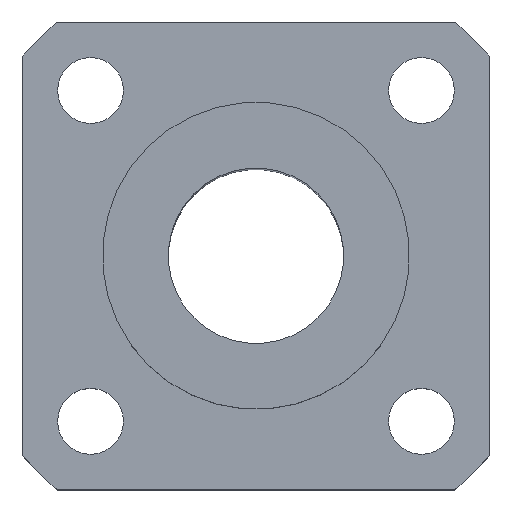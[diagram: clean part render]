
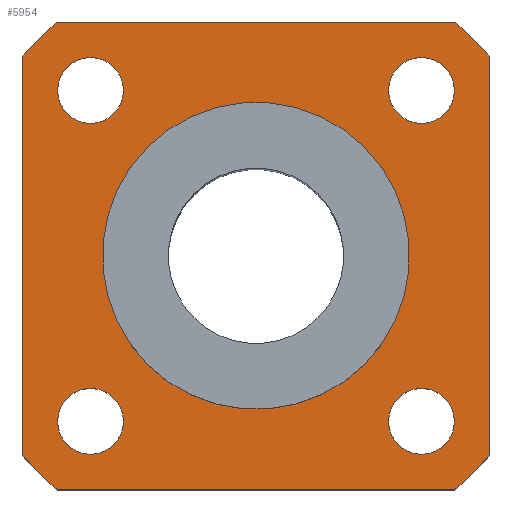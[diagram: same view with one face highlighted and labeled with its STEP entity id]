
A CAD part, top view. The second image highlights one B-rep face of the part: STEP entity #5954.
In plain terms, the highlighted planar face has unit normal (0, 0, 1).
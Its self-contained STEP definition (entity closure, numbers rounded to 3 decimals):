
#112=CIRCLE('',#6314,21.);
#113=CIRCLE('',#6316,21.);
#114=CIRCLE('',#6318,21.);
#124=CIRCLE('',#6334,10.5);
#128=CIRCLE('',#6342,21.);
#129=CIRCLE('',#6344,2.25);
#130=CIRCLE('',#6345,2.25);
#131=CIRCLE('',#6346,2.25);
#132=CIRCLE('',#6347,2.25);
#562=ORIENTED_EDGE('',*,*,#2275,.F.);
#563=ORIENTED_EDGE('',*,*,#2258,.T.);
#564=ORIENTED_EDGE('',*,*,#2276,.F.);
#565=ORIENTED_EDGE('',*,*,#2274,.T.);
#566=ORIENTED_EDGE('',*,*,#2277,.F.);
#567=ORIENTED_EDGE('',*,*,#2254,.T.);
#568=ORIENTED_EDGE('',*,*,#2278,.F.);
#569=ORIENTED_EDGE('',*,*,#2251,.T.);
#570=ORIENTED_EDGE('',*,*,#2279,.F.);
#571=ORIENTED_EDGE('',*,*,#2280,.F.);
#572=ORIENTED_EDGE('',*,*,#2281,.F.);
#573=ORIENTED_EDGE('',*,*,#2282,.F.);
#574=ORIENTED_EDGE('',*,*,#2268,.T.);
#2251=EDGE_CURVE('',#3112,#3111,#112,.T.);
#2254=EDGE_CURVE('',#3114,#3113,#113,.T.);
#2258=EDGE_CURVE('',#3115,#3116,#114,.T.);
#2268=EDGE_CURVE('',#3126,#3126,#124,.F.);
#2274=EDGE_CURVE('',#3130,#3131,#128,.T.);
#2275=EDGE_CURVE('',#3115,#3111,#3638,.T.);
#2276=EDGE_CURVE('',#3130,#3116,#3639,.T.);
#2277=EDGE_CURVE('',#3114,#3131,#3640,.T.);
#2278=EDGE_CURVE('',#3112,#3113,#3641,.T.);
#2279=EDGE_CURVE('',#3132,#3132,#129,.T.);
#2280=EDGE_CURVE('',#3133,#3133,#130,.T.);
#2281=EDGE_CURVE('',#3134,#3134,#131,.T.);
#2282=EDGE_CURVE('',#3135,#3135,#132,.T.);
#3111=VERTEX_POINT('',#9371);
#3112=VERTEX_POINT('',#9373);
#3113=VERTEX_POINT('',#9377);
#3114=VERTEX_POINT('',#9379);
#3115=VERTEX_POINT('',#9383);
#3116=VERTEX_POINT('',#9385);
#3126=VERTEX_POINT('',#9412);
#3130=VERTEX_POINT('',#9424);
#3131=VERTEX_POINT('',#9426);
#3132=VERTEX_POINT('',#9434);
#3133=VERTEX_POINT('',#9436);
#3134=VERTEX_POINT('',#9438);
#3135=VERTEX_POINT('',#9440);
#3638=LINE('',#9429,#4339);
#3639=LINE('',#9430,#4340);
#3640=LINE('',#9431,#4341);
#3641=LINE('',#9432,#4342);
#4339=VECTOR('',#6924,1000.);
#4340=VECTOR('',#6925,1000.);
#4341=VECTOR('',#6926,1000.);
#4342=VECTOR('',#6927,1000.);
#4894=EDGE_LOOP('',(#562,#563,#564,#565,#566,#567,#568,#569));
#4895=EDGE_LOOP('',(#570));
#4896=EDGE_LOOP('',(#571));
#4897=EDGE_LOOP('',(#572));
#4898=EDGE_LOOP('',(#573));
#4899=EDGE_LOOP('',(#574));
#5317=FACE_BOUND('',#4894,.T.);
#5318=FACE_BOUND('',#4895,.T.);
#5319=FACE_BOUND('',#4896,.T.);
#5320=FACE_BOUND('',#4897,.T.);
#5321=FACE_BOUND('',#4898,.T.);
#5322=FACE_BOUND('',#4899,.T.);
#5680=PLANE('',#6343);
#5954=ADVANCED_FACE('',(#5317,#5318,#5319,#5320,#5321,#5322),#5680,.T.);
#6314=AXIS2_PLACEMENT_3D('',#9372,#6857,#6858);
#6316=AXIS2_PLACEMENT_3D('',#9378,#6863,#6864);
#6318=AXIS2_PLACEMENT_3D('',#9386,#6870,#6871);
#6334=AXIS2_PLACEMENT_3D('',#9411,#6902,#6903);
#6342=AXIS2_PLACEMENT_3D('',#9427,#6920,#6921);
#6343=AXIS2_PLACEMENT_3D('',#9428,#6922,#6923);
#6344=AXIS2_PLACEMENT_3D('',#9433,#6928,#6929);
#6345=AXIS2_PLACEMENT_3D('',#9435,#6930,#6931);
#6346=AXIS2_PLACEMENT_3D('',#9437,#6932,#6933);
#6347=AXIS2_PLACEMENT_3D('',#9439,#6934,#6935);
#6857=DIRECTION('',(0.,0.,1.));
#6858=DIRECTION('',(0.707,-0.707,0.));
#6863=DIRECTION('',(0.,0.,1.));
#6864=DIRECTION('',(0.707,-0.707,0.));
#6870=DIRECTION('',(0.,0.,1.));
#6871=DIRECTION('',(0.707,-0.707,0.));
#6902=DIRECTION('',(0.,0.,1.));
#6903=DIRECTION('',(0.707,-0.707,0.));
#6920=DIRECTION('',(0.,0.,1.));
#6921=DIRECTION('',(0.707,-0.707,0.));
#6922=DIRECTION('',(0.,0.,1.));
#6923=DIRECTION('',(0.707,-0.707,0.));
#6924=DIRECTION('',(0.,1.,0.));
#6925=DIRECTION('',(-1.,0.,0.));
#6926=DIRECTION('',(0.,-1.,0.));
#6927=DIRECTION('',(1.,0.,0.));
#6928=DIRECTION('',(0.,0.,1.));
#6929=DIRECTION('',(0.707,-0.707,0.));
#6930=DIRECTION('',(0.,0.,1.));
#6931=DIRECTION('',(0.707,-0.707,0.));
#6932=DIRECTION('',(0.,0.,1.));
#6933=DIRECTION('',(0.707,-0.707,0.));
#6934=DIRECTION('',(0.,0.,1.));
#6935=DIRECTION('',(0.707,-0.707,0.));
#9371=CARTESIAN_POINT('',(-16.,13.601,0.));
#9372=CARTESIAN_POINT('',(0.,0.,0.));
#9373=CARTESIAN_POINT('',(-13.601,16.,0.));
#9377=CARTESIAN_POINT('',(13.601,16.,0.));
#9378=CARTESIAN_POINT('',(0.,0.,0.));
#9379=CARTESIAN_POINT('',(16.,13.601,0.));
#9383=CARTESIAN_POINT('',(-16.,-13.601,0.));
#9385=CARTESIAN_POINT('',(-13.601,-16.,0.));
#9386=CARTESIAN_POINT('',(0.,0.,0.));
#9411=CARTESIAN_POINT('',(0.,0.,0.));
#9412=CARTESIAN_POINT('',(7.425,-7.425,0.));
#9424=CARTESIAN_POINT('',(13.601,-16.,0.));
#9426=CARTESIAN_POINT('',(16.,-13.601,0.));
#9427=CARTESIAN_POINT('',(0.,0.,0.));
#9428=CARTESIAN_POINT('',(0.,0.,0.));
#9429=CARTESIAN_POINT('',(-16.,-13.601,0.));
#9430=CARTESIAN_POINT('',(-13.601,-16.,0.));
#9431=CARTESIAN_POINT('',(16.,13.601,0.));
#9432=CARTESIAN_POINT('',(13.601,16.,0.));
#9433=CARTESIAN_POINT('',(11.314,11.314,0.));
#9434=CARTESIAN_POINT('',(12.905,9.723,0.));
#9435=CARTESIAN_POINT('',(-11.314,11.314,0.));
#9436=CARTESIAN_POINT('',(-9.723,9.723,0.));
#9437=CARTESIAN_POINT('',(-11.314,-11.314,0.));
#9438=CARTESIAN_POINT('',(-9.723,-12.905,0.));
#9439=CARTESIAN_POINT('',(11.314,-11.314,0.));
#9440=CARTESIAN_POINT('',(12.905,-12.905,0.));
